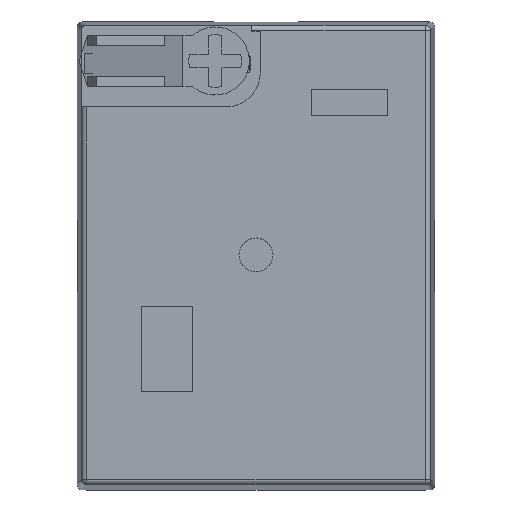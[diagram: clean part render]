
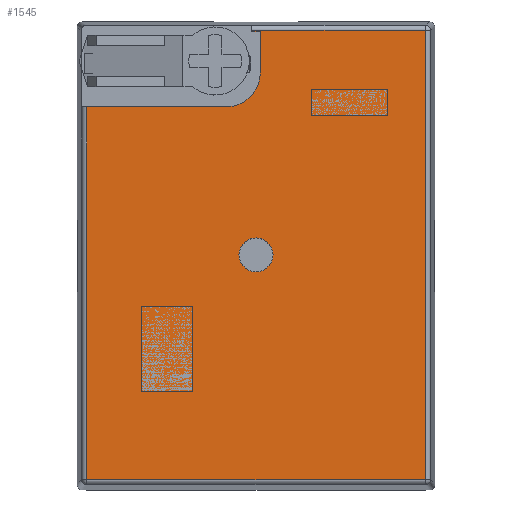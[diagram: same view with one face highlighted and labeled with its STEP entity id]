
A CAD part, top view. The second image highlights one B-rep face of the part: STEP entity #1545.
In plain terms, the highlighted planar face has unit normal (0, 0, 1).
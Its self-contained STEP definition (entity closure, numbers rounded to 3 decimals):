
#1545=ADVANCED_FACE('',(#2488,#2489),#2180,.F.);
#2180=PLANE('',#14715);
#2488=FACE_BOUND('',#3107,.T.);
#2489=FACE_BOUND('',#3108,.T.);
#3107=EDGE_LOOP('',(#6272));
#3108=EDGE_LOOP('',(#6273,#6274,#6275,#6276,#6277,#6278,#6279,#6280,#6281));
#3555=CIRCLE('',#14713,1.);
#3556=CIRCLE('',#14714,2.);
#6272=ORIENTED_EDGE('',*,*,#10170,.F.);
#6273=ORIENTED_EDGE('',*,*,#10171,.T.);
#6274=ORIENTED_EDGE('',*,*,#10172,.T.);
#6275=ORIENTED_EDGE('',*,*,#10173,.F.);
#6276=ORIENTED_EDGE('',*,*,#10174,.F.);
#6277=ORIENTED_EDGE('',*,*,#10175,.T.);
#6278=ORIENTED_EDGE('',*,*,#10176,.T.);
#6279=ORIENTED_EDGE('',*,*,#10177,.T.);
#6280=ORIENTED_EDGE('',*,*,#10178,.T.);
#6281=ORIENTED_EDGE('',*,*,#10179,.T.);
#8437=VERTEX_POINT('',#22210);
#8438=VERTEX_POINT('',#22212);
#8439=VERTEX_POINT('',#22213);
#8440=VERTEX_POINT('',#22215);
#8441=VERTEX_POINT('',#22217);
#8442=VERTEX_POINT('',#22219);
#8443=VERTEX_POINT('',#22221);
#8444=VERTEX_POINT('',#22223);
#8445=VERTEX_POINT('',#22225);
#8446=VERTEX_POINT('',#22227);
#10170=EDGE_CURVE('',#8437,#8437,#3555,.T.);
#10171=EDGE_CURVE('',#8438,#8439,#11903,.T.);
#10172=EDGE_CURVE('',#8439,#8440,#11904,.T.);
#10173=EDGE_CURVE('',#8441,#8440,#11905,.T.);
#10174=EDGE_CURVE('',#8442,#8441,#11906,.T.);
#10175=EDGE_CURVE('',#8442,#8443,#11907,.T.);
#10176=EDGE_CURVE('',#8443,#8444,#3556,.T.);
#10177=EDGE_CURVE('',#8444,#8445,#11908,.T.);
#10178=EDGE_CURVE('',#8445,#8446,#11909,.T.);
#10179=EDGE_CURVE('',#8446,#8438,#11910,.T.);
#11903=LINE('',#22211,#13570);
#11904=LINE('',#22214,#13571);
#11905=LINE('',#22216,#13572);
#11906=LINE('',#22218,#13573);
#11907=LINE('',#22220,#13574);
#11908=LINE('',#22224,#13575);
#11909=LINE('',#22226,#13576);
#11910=LINE('',#22228,#13577);
#13570=VECTOR('',#17448,1.);
#13571=VECTOR('',#17449,1.);
#13572=VECTOR('',#17450,1.);
#13573=VECTOR('',#17451,1.);
#13574=VECTOR('',#17452,1.);
#13575=VECTOR('',#17455,1.);
#13576=VECTOR('',#17456,1.);
#13577=VECTOR('',#17457,1.);
#14713=AXIS2_PLACEMENT_3D('',#22209,#17446,#17447);
#14714=AXIS2_PLACEMENT_3D('',#22222,#17453,#17454);
#14715=AXIS2_PLACEMENT_3D('',#22229,#17458,#17459);
#17446=DIRECTION('',(0.,0.,1.));
#17447=DIRECTION('',(-1.,0.,0.));
#17448=DIRECTION('',(0.,1.,0.));
#17449=DIRECTION('',(-1.,0.,0.));
#17450=DIRECTION('',(0.,1.,0.));
#17451=DIRECTION('',(-1.,0.,0.));
#17452=DIRECTION('',(0.,-1.,0.));
#17453=DIRECTION('',(0.,0.,-1.));
#17454=DIRECTION('',(-1.,0.,0.));
#17455=DIRECTION('',(-1.,0.,0.));
#17456=DIRECTION('',(0.,-1.,0.));
#17457=DIRECTION('',(1.,0.,0.));
#17458=DIRECTION('',(0.,0.,-1.));
#17459=DIRECTION('',(-1.,0.,0.));
#22209=CARTESIAN_POINT('',(0.,0.025,35.));
#22210=CARTESIAN_POINT('',(-1.,0.025,35.));
#22211=CARTESIAN_POINT('',(9.952,13.525,35.));
#22212=CARTESIAN_POINT('',(9.952,-13.177,35.));
#22213=CARTESIAN_POINT('',(9.952,13.227,35.));
#22214=CARTESIAN_POINT('',(-0.25,13.227,35.));
#22215=CARTESIAN_POINT('',(-0.25,13.227,35.));
#22216=CARTESIAN_POINT('',(-0.25,13.141,35.));
#22217=CARTESIAN_POINT('',(-0.25,13.141,35.));
#22218=CARTESIAN_POINT('',(0.542,13.141,35.));
#22219=CARTESIAN_POINT('',(0.25,13.141,35.));
#22220=CARTESIAN_POINT('',(0.25,16.125,35.));
#22221=CARTESIAN_POINT('',(0.25,10.725,35.));
#22222=CARTESIAN_POINT('',(-1.75,10.725,35.));
#22223=CARTESIAN_POINT('',(-1.75,8.725,35.));
#22224=CARTESIAN_POINT('',(0.25,8.725,35.));
#22225=CARTESIAN_POINT('',(-9.952,8.725,35.));
#22226=CARTESIAN_POINT('',(-9.952,-13.475,35.));
#22227=CARTESIAN_POINT('',(-9.952,-13.177,35.));
#22228=CARTESIAN_POINT('',(10.25,-13.177,35.));
#22229=CARTESIAN_POINT('',(-10.5,-13.725,35.));
